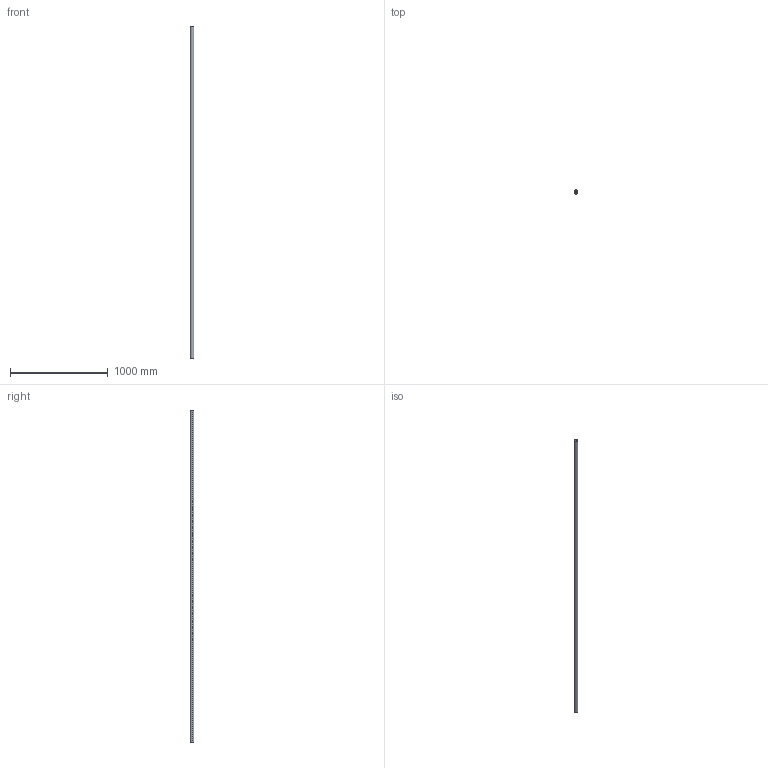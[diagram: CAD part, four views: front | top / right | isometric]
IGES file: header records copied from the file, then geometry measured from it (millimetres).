
Start section: SolidWorks IGES file using analytic representation for surfaces
Global section: file name: C:\Users\IanO\Desktop\L1771_v2\L1771.40_v2\L1771.40_v2_20230705_IGES\L1771.40-3400.igs; native system: SolidWorks 2019; preprocessor: SolidWorks 2019; author: IanO; date: 230705.161845; units: millimetre
Bounding box: 40 x 40 x 3400 mm (x, y, z)
Surface area: 727618 mm2 (no closed solid volume)
Topology: 0 solids, 0 shells, 6 faces, 272 edges, 272 vertices
Faces by surface type: revolution 4, bspline 2
